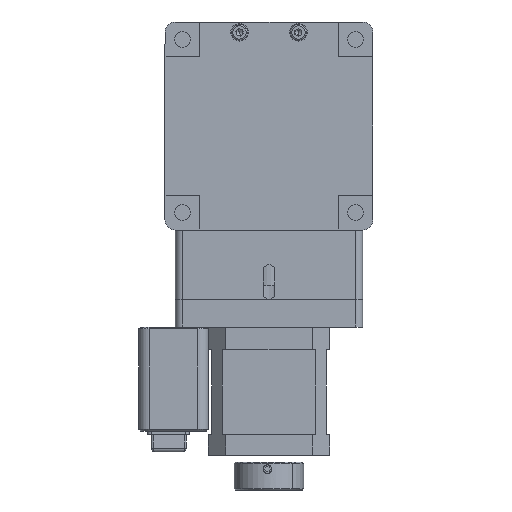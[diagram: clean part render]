
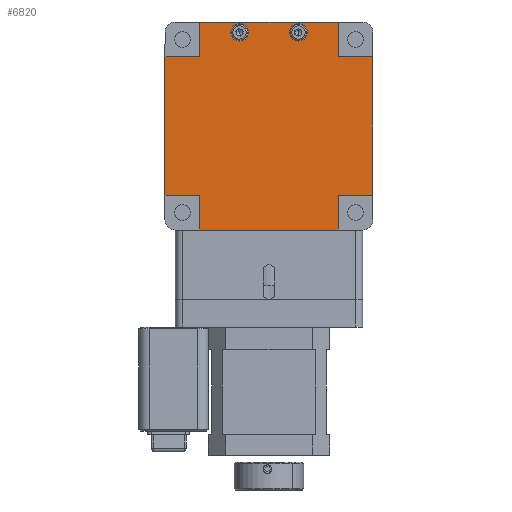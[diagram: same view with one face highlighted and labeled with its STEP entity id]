
A CAD part, front view. The second image highlights one B-rep face of the part: STEP entity #6820.
In plain terms, the highlighted planar face has unit normal (0, -1, 0).
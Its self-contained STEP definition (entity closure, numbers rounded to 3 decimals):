
#381 = VERTEX_POINT ( 'NONE', #20908 ) ;
#583 = LINE ( 'NONE', #12970, #13757 ) ;
#676 = ORIENTED_EDGE ( 'NONE', *, *, #1666, .F. ) ;
#888 = DIRECTION ( 'NONE',  ( 0., 0., -1. ) ) ;
#1513 = DIRECTION ( 'NONE',  ( 1., 0., 0. ) ) ;
#1666 = EDGE_CURVE ( 'NONE', #21309, #3979, #13718, .T. ) ;
#1779 = DIRECTION ( 'NONE',  ( 0., 0., -1. ) ) ;
#1997 = ORIENTED_EDGE ( 'NONE', *, *, #12951, .T. ) ;
#2124 = EDGE_CURVE ( 'NONE', #17956, #11279, #4535, .T. ) ;
#2395 = DIRECTION ( 'NONE',  ( -1., 0., 0. ) ) ;
#2802 = CARTESIAN_POINT ( 'NONE',  ( 31.071, -15.838, 24.08 ) ) ;
#2916 = CIRCLE ( 'NONE', #16133, 2.5 ) ;
#3039 = DIRECTION ( 'NONE',  ( 0., 0., -1. ) ) ;
#3694 = DIRECTION ( 'NONE',  ( 0., 0., -1. ) ) ;
#3728 = VECTOR ( 'NONE', #17106, 1000. ) ;
#3828 = CARTESIAN_POINT ( 'NONE',  ( 21.071, -15.838, 34.08 ) ) ;
#3979 = VERTEX_POINT ( 'NONE', #9756 ) ;
#3990 = DIRECTION ( 'NONE',  ( 1., 0., 0. ) ) ;
#4415 = EDGE_CURVE ( 'NONE', #20357, #13742, #7139, .T. ) ;
#4517 = ORIENTED_EDGE ( 'NONE', *, *, #8941, .T. ) ;
#4535 = LINE ( 'NONE', #16630, #5152 ) ;
#4801 = PLANE ( 'NONE',  #11671 ) ;
#4828 = ORIENTED_EDGE ( 'NONE', *, *, #17384, .F. ) ;
#4844 = DIRECTION ( 'NONE',  ( 0., 0., -1. ) ) ;
#5072 = VECTOR ( 'NONE', #1513, 1000. ) ;
#5152 = VECTOR ( 'NONE', #17481, 1000. ) ;
#5179 = VECTOR ( 'NONE', #3990, 1000. ) ;
#5190 = LINE ( 'NONE', #14748, #14876 ) ;
#5297 = EDGE_LOOP ( 'NONE', ( #676, #15999 ) ) ;
#5307 = LINE ( 'NONE', #5351, #9235 ) ;
#5351 = CARTESIAN_POINT ( 'NONE',  ( -28.929, -15.838, 24.08 ) ) ;
#5375 = DIRECTION ( 'NONE',  ( 1., 0., 0. ) ) ;
#5557 = EDGE_CURVE ( 'NONE', #17748, #6372, #7025, .T. ) ;
#5604 = FACE_BOUND ( 'NONE', #21894, .T. ) ;
#5659 = EDGE_CURVE ( 'NONE', #21557, #17956, #9081, .T. ) ;
#5697 = CARTESIAN_POINT ( 'NONE',  ( 21.071, -15.838, -25.92 ) ) ;
#5933 = CARTESIAN_POINT ( 'NONE',  ( 21.071, -15.838, -15.92 ) ) ;
#5969 = VERTEX_POINT ( 'NONE', #17603 ) ;
#6050 = CARTESIAN_POINT ( 'NONE',  ( -18.929, -15.838, 34.08 ) ) ;
#6372 = VERTEX_POINT ( 'NONE', #9080 ) ;
#6655 = EDGE_CURVE ( 'NONE', #18415, #12592, #2916, .T. ) ;
#6774 = CIRCLE ( 'NONE', #16731, 2.5 ) ;
#6820 = ADVANCED_FACE ( 'NONE', ( #19780, #5604, #14197 ), #4801, .T. ) ;
#7025 = LINE ( 'NONE', #6050, #15597 ) ;
#7139 = LINE ( 'NONE', #7756, #12806 ) ;
#7175 = ORIENTED_EDGE ( 'NONE', *, *, #2124, .T. ) ;
#7756 = CARTESIAN_POINT ( 'NONE',  ( 31.071, -15.838, -15.92 ) ) ;
#7786 = DIRECTION ( 'NONE',  ( 0., 0., -1. ) ) ;
#8199 = ORIENTED_EDGE ( 'NONE', *, *, #10207, .T. ) ;
#8390 = CARTESIAN_POINT ( 'NONE',  ( -18.929, -15.838, -15.92 ) ) ;
#8516 = EDGE_CURVE ( 'NONE', #13742, #5969, #16105, .T. ) ;
#8780 = CARTESIAN_POINT ( 'NONE',  ( -7.429, -15.838, 31.08 ) ) ;
#8941 = EDGE_CURVE ( 'NONE', #9727, #17748, #5190, .T. ) ;
#9080 = CARTESIAN_POINT ( 'NONE',  ( -18.929, -15.838, 24.08 ) ) ;
#9081 = LINE ( 'NONE', #11008, #5072 ) ;
#9203 = CIRCLE ( 'NONE', #15238, 2.5 ) ;
#9235 = VECTOR ( 'NONE', #3694, 1000. ) ;
#9727 = VERTEX_POINT ( 'NONE', #10165 ) ;
#9756 = CARTESIAN_POINT ( 'NONE',  ( -7.429, -15.838, 33.58 ) ) ;
#10060 = ORIENTED_EDGE ( 'NONE', *, *, #8516, .T. ) ;
#10077 = DIRECTION ( 'NONE',  ( 0., -1., 0. ) ) ;
#10165 = CARTESIAN_POINT ( 'NONE',  ( 21.071, -15.838, 34.08 ) ) ;
#10181 = VECTOR ( 'NONE', #20079, 1000. ) ;
#10207 = EDGE_CURVE ( 'NONE', #6372, #381, #10968, .T. ) ;
#10622 = LINE ( 'NONE', #12552, #5179 ) ;
#10968 = LINE ( 'NONE', #16590, #3728 ) ;
#11008 = CARTESIAN_POINT ( 'NONE',  ( -18.929, -15.838, -25.92 ) ) ;
#11035 = DIRECTION ( 'NONE',  ( 0., 0., -1. ) ) ;
#11279 = VERTEX_POINT ( 'NONE', #5933 ) ;
#11291 = CARTESIAN_POINT ( 'NONE',  ( -18.929, -15.838, -25.92 ) ) ;
#11355 = ORIENTED_EDGE ( 'NONE', *, *, #18648, .T. ) ;
#11537 = ORIENTED_EDGE ( 'NONE', *, *, #19579, .T. ) ;
#11671 = AXIS2_PLACEMENT_3D ( 'NONE', #3828, #20595, #888 ) ;
#11805 = ORIENTED_EDGE ( 'NONE', *, *, #5659, .T. ) ;
#12461 = ORIENTED_EDGE ( 'NONE', *, *, #4415, .T. ) ;
#12552 = CARTESIAN_POINT ( 'NONE',  ( 21.071, -15.838, -15.92 ) ) ;
#12592 = VERTEX_POINT ( 'NONE', #14055 ) ;
#12806 = VECTOR ( 'NONE', #18783, 1000. ) ;
#12951 = EDGE_CURVE ( 'NONE', #17206, #14556, #15142, .T. ) ;
#12958 = VECTOR ( 'NONE', #5375, 1000. ) ;
#12970 = CARTESIAN_POINT ( 'NONE',  ( 21.071, -15.838, 24.08 ) ) ;
#13051 = AXIS2_PLACEMENT_3D ( 'NONE', #13079, #16933, #1779 ) ;
#13079 = CARTESIAN_POINT ( 'NONE',  ( -7.429, -15.838, 31.08 ) ) ;
#13321 = ORIENTED_EDGE ( 'NONE', *, *, #5557, .T. ) ;
#13332 = CARTESIAN_POINT ( 'NONE',  ( 9.571, -15.838, 31.08 ) ) ;
#13718 = CIRCLE ( 'NONE', #13051, 2.5 ) ;
#13742 = VERTEX_POINT ( 'NONE', #2802 ) ;
#13757 = VECTOR ( 'NONE', #19987, 1000. ) ;
#13880 = DIRECTION ( 'NONE',  ( 0., -1., 0. ) ) ;
#14034 = CARTESIAN_POINT ( 'NONE',  ( -18.929, -15.838, 34.08 ) ) ;
#14055 = CARTESIAN_POINT ( 'NONE',  ( 9.571, -15.838, 28.58 ) ) ;
#14197 = FACE_OUTER_BOUND ( 'NONE', #14458, .T. ) ;
#14458 = EDGE_LOOP ( 'NONE', ( #4517, #13321, #8199, #11537, #1997, #17659, #11805, #7175, #15429, #12461, #10060, #11355 ) ) ;
#14556 = VERTEX_POINT ( 'NONE', #15997 ) ;
#14748 = CARTESIAN_POINT ( 'NONE',  ( -18.929, -15.838, 34.08 ) ) ;
#14876 = VECTOR ( 'NONE', #2395, 1000. ) ;
#14887 = CARTESIAN_POINT ( 'NONE',  ( -28.929, -15.838, -15.92 ) ) ;
#15142 = LINE ( 'NONE', #14887, #12958 ) ;
#15238 = AXIS2_PLACEMENT_3D ( 'NONE', #8780, #10077, #3039 ) ;
#15429 = ORIENTED_EDGE ( 'NONE', *, *, #19798, .T. ) ;
#15597 = VECTOR ( 'NONE', #7786, 1000. ) ;
#15659 = CARTESIAN_POINT ( 'NONE',  ( 31.071, -15.838, 24.08 ) ) ;
#15997 = CARTESIAN_POINT ( 'NONE',  ( -18.929, -15.838, -15.92 ) ) ;
#15999 = ORIENTED_EDGE ( 'NONE', *, *, #17766, .F. ) ;
#16105 = LINE ( 'NONE', #15659, #10181 ) ;
#16133 = AXIS2_PLACEMENT_3D ( 'NONE', #18675, #21032, #11035 ) ;
#16307 = VECTOR ( 'NONE', #4844, 1000. ) ;
#16430 = CARTESIAN_POINT ( 'NONE',  ( -28.929, -15.838, -15.92 ) ) ;
#16590 = CARTESIAN_POINT ( 'NONE',  ( -18.929, -15.838, 24.08 ) ) ;
#16630 = CARTESIAN_POINT ( 'NONE',  ( 21.071, -15.838, -25.92 ) ) ;
#16731 = AXIS2_PLACEMENT_3D ( 'NONE', #13332, #13880, #21428 ) ;
#16933 = DIRECTION ( 'NONE',  ( 0., -1., 0. ) ) ;
#17106 = DIRECTION ( 'NONE',  ( -1., 0., 0. ) ) ;
#17206 = VERTEX_POINT ( 'NONE', #16430 ) ;
#17367 = ORIENTED_EDGE ( 'NONE', *, *, #6655, .F. ) ;
#17384 = EDGE_CURVE ( 'NONE', #12592, #18415, #6774, .T. ) ;
#17481 = DIRECTION ( 'NONE',  ( 0., 0., 1. ) ) ;
#17603 = CARTESIAN_POINT ( 'NONE',  ( 21.071, -15.838, 24.08 ) ) ;
#17659 = ORIENTED_EDGE ( 'NONE', *, *, #21848, .T. ) ;
#17748 = VERTEX_POINT ( 'NONE', #14034 ) ;
#17766 = EDGE_CURVE ( 'NONE', #3979, #21309, #9203, .T. ) ;
#17956 = VERTEX_POINT ( 'NONE', #5697 ) ;
#18273 = CARTESIAN_POINT ( 'NONE',  ( 9.571, -15.838, 33.58 ) ) ;
#18415 = VERTEX_POINT ( 'NONE', #18273 ) ;
#18648 = EDGE_CURVE ( 'NONE', #5969, #9727, #583, .T. ) ;
#18675 = CARTESIAN_POINT ( 'NONE',  ( 9.571, -15.838, 31.08 ) ) ;
#18783 = DIRECTION ( 'NONE',  ( 0., 0., 1. ) ) ;
#19052 = CARTESIAN_POINT ( 'NONE',  ( 31.071, -15.838, -15.92 ) ) ;
#19579 = EDGE_CURVE ( 'NONE', #381, #17206, #5307, .T. ) ;
#19780 = FACE_BOUND ( 'NONE', #5297, .T. ) ;
#19798 = EDGE_CURVE ( 'NONE', #11279, #20357, #10622, .T. ) ;
#19987 = DIRECTION ( 'NONE',  ( 0., 0., 1. ) ) ;
#20079 = DIRECTION ( 'NONE',  ( -1., 0., 0. ) ) ;
#20357 = VERTEX_POINT ( 'NONE', #19052 ) ;
#20565 = LINE ( 'NONE', #8390, #16307 ) ;
#20595 = DIRECTION ( 'NONE',  ( 0., -1., 0. ) ) ;
#20908 = CARTESIAN_POINT ( 'NONE',  ( -28.929, -15.838, 24.08 ) ) ;
#21032 = DIRECTION ( 'NONE',  ( 0., -1., 0. ) ) ;
#21309 = VERTEX_POINT ( 'NONE', #21530 ) ;
#21428 = DIRECTION ( 'NONE',  ( 0., 0., -1. ) ) ;
#21530 = CARTESIAN_POINT ( 'NONE',  ( -7.429, -15.838, 28.58 ) ) ;
#21557 = VERTEX_POINT ( 'NONE', #11291 ) ;
#21848 = EDGE_CURVE ( 'NONE', #14556, #21557, #20565, .T. ) ;
#21894 = EDGE_LOOP ( 'NONE', ( #4828, #17367 ) ) ;
